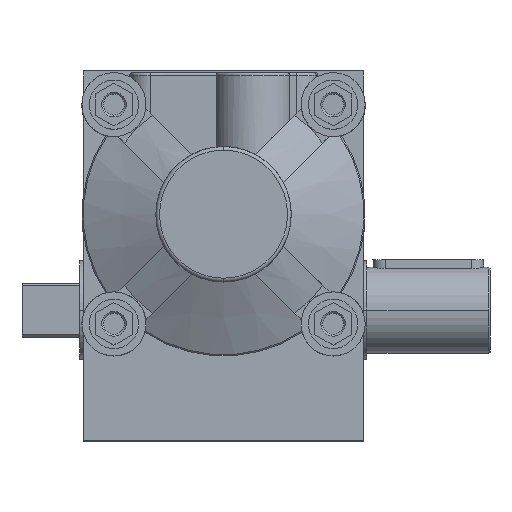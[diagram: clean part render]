
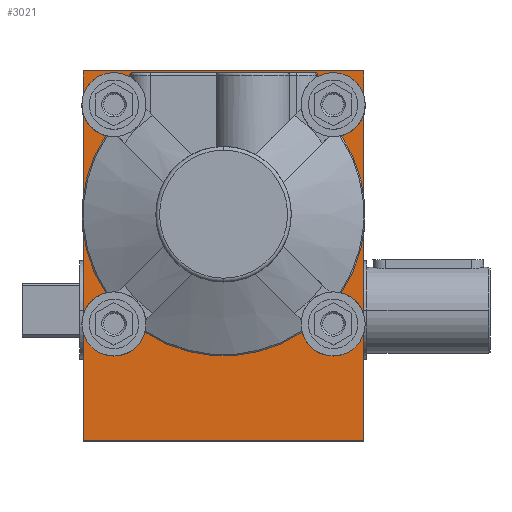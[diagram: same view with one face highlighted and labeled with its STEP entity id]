
A CAD part, top view. The second image highlights one B-rep face of the part: STEP entity #3021.
In plain terms, the highlighted planar face has unit normal (0, 0, 1).
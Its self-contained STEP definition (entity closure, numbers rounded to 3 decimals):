
#272=CARTESIAN_POINT('',(0.,0.,62.5));
#273=DIRECTION('',(0.,0.,1.));
#274=DIRECTION('',(0.,1.,0.));
#275=AXIS2_PLACEMENT_3D('',#272,#273,#274);
#277=CARTESIAN_POINT('',(0.,0.,62.5));
#278=DIRECTION('',(0.,0.,-1.));
#279=DIRECTION('',(0.,1.,0.));
#280=AXIS2_PLACEMENT_3D('',#277,#278,#279);
#282=DIRECTION('',(1.,0.,0.));
#283=VECTOR('',#282,114.);
#284=CARTESIAN_POINT('',(-57.,-91.5,62.5));
#285=LINE('25798',#284,#283);
#286=DIRECTION('',(0.,-1.,0.));
#287=VECTOR('',#286,150.);
#288=CARTESIAN_POINT('',(-57.,58.5,62.5));
#289=LINE('25801',#288,#287);
#290=DIRECTION('',(-1.,0.,0.));
#291=VECTOR('',#290,114.);
#292=CARTESIAN_POINT('',(57.,58.5,62.5));
#293=LINE('25800',#292,#291);
#294=DIRECTION('',(0.,1.,0.));
#295=VECTOR('',#294,150.);
#296=CARTESIAN_POINT('',(57.,-91.5,62.5));
#297=LINE('25799',#296,#295);
#929=CARTESIAN_POINT('',(44.5,44.5,62.5));
#930=DIRECTION('',(0.,0.,1.));
#931=DIRECTION('',(1.,0.,0.));
#932=AXIS2_PLACEMENT_3D('',#929,#930,#931);
#947=CARTESIAN_POINT('',(44.5,44.5,62.5));
#948=DIRECTION('',(0.,0.,1.));
#949=DIRECTION('',(-1.,0.,0.));
#950=AXIS2_PLACEMENT_3D('',#947,#948,#949);
#965=CARTESIAN_POINT('',(-44.5,44.5,62.5));
#966=DIRECTION('',(0.,0.,1.));
#967=DIRECTION('',(1.,0.,0.));
#968=AXIS2_PLACEMENT_3D('',#965,#966,#967);
#983=CARTESIAN_POINT('',(-44.5,44.5,62.5));
#984=DIRECTION('',(0.,0.,1.));
#985=DIRECTION('',(-1.,0.,0.));
#986=AXIS2_PLACEMENT_3D('',#983,#984,#985);
#1001=CARTESIAN_POINT('',(-44.5,-44.5,62.5));
#1002=DIRECTION('',(0.,0.,1.));
#1003=DIRECTION('',(1.,0.,0.));
#1004=AXIS2_PLACEMENT_3D('',#1001,#1002,#1003);
#1019=CARTESIAN_POINT('',(-44.5,-44.5,62.5));
#1020=DIRECTION('',(0.,0.,1.));
#1021=DIRECTION('',(-1.,0.,0.));
#1022=AXIS2_PLACEMENT_3D('',#1019,#1020,#1021);
#1037=CARTESIAN_POINT('',(44.5,-44.5,62.5));
#1038=DIRECTION('',(0.,0.,1.));
#1039=DIRECTION('',(1.,0.,0.));
#1040=AXIS2_PLACEMENT_3D('',#1037,#1038,#1039);
#1055=CARTESIAN_POINT('',(44.5,-44.5,62.5));
#1056=DIRECTION('',(0.,0.,1.));
#1057=DIRECTION('',(-1.,0.,0.));
#1058=AXIS2_PLACEMENT_3D('',#1055,#1056,#1057);
#2264=CARTESIAN_POINT('',(-57.,-91.5,62.5));
#2265=CARTESIAN_POINT('',(57.,-91.5,62.5));
#2266=VERTEX_POINT('',#2264);
#2267=VERTEX_POINT('',#2265);
#2268=CARTESIAN_POINT('',(57.,58.5,62.5));
#2269=VERTEX_POINT('',#2268);
#2270=CARTESIAN_POINT('',(-57.,58.5,62.5));
#2271=VERTEX_POINT('',#2270);
#2580=CARTESIAN_POINT('',(48.95,44.5,62.5));
#2581=CARTESIAN_POINT('',(40.05,44.5,62.5));
#2582=VERTEX_POINT('',#2580);
#2583=VERTEX_POINT('',#2581);
#2588=CARTESIAN_POINT('',(-40.05,44.5,62.5));
#2589=CARTESIAN_POINT('',(-48.95,44.5,62.5));
#2590=VERTEX_POINT('',#2588);
#2591=VERTEX_POINT('',#2589);
#2596=CARTESIAN_POINT('',(-40.05,-44.5,62.5));
#2597=CARTESIAN_POINT('',(-48.95,-44.5,62.5));
#2598=VERTEX_POINT('',#2596);
#2599=VERTEX_POINT('',#2597);
#2604=CARTESIAN_POINT('',(48.95,-44.5,62.5));
#2605=CARTESIAN_POINT('',(40.05,-44.5,62.5));
#2606=VERTEX_POINT('',#2604);
#2607=VERTEX_POINT('',#2605);
#2625=CARTESIAN_POINT('',(0.,52.9,62.5));
#2627=VERTEX_POINT('',#2625);
#2641=CARTESIAN_POINT('',(0.,-52.9,62.5));
#2643=VERTEX_POINT('',#2641);
#2980=CARTESIAN_POINT('',(0.,0.,62.5));
#2981=DIRECTION('',(0.,0.,1.));
#2982=DIRECTION('',(0.,1.,0.));
#2983=AXIS2_PLACEMENT_3D('',#2980,#2981,#2982);
#2984=PLANE('25797',#2983);
#2985=ORIENTED_EDGE('25798',*,*,#2848,.F.);
#2986=ORIENTED_EDGE('25801',*,*,#2887,.F.);
#2987=ORIENTED_EDGE('25800',*,*,#2931,.F.);
#2988=ORIENTED_EDGE('25799',*,*,#2944,.F.);
#2989=EDGE_LOOP('25797',(#2985,#2986,#2987,#2988));
#2990=FACE_OUTER_BOUND('25797',#2989,.F.);
#2992=ORIENTED_EDGE('29380',*,*,#2991,.T.);
#2994=ORIENTED_EDGE('29338',*,*,#2993,.F.);
#2995=EDGE_LOOP('25797',(#2992,#2994));
#2996=FACE_BOUND('25797',#2995,.F.);
#2998=ORIENTED_EDGE('28058',*,*,#2997,.T.);
#3000=ORIENTED_EDGE('28060',*,*,#2999,.T.);
#3001=EDGE_LOOP('25797',(#2998,#3000));
#3002=FACE_BOUND('25797',#3001,.F.);
#3004=ORIENTED_EDGE('28062',*,*,#3003,.T.);
#3006=ORIENTED_EDGE('28064',*,*,#3005,.T.);
#3007=EDGE_LOOP('25797',(#3004,#3006));
#3008=FACE_BOUND('25797',#3007,.F.);
#3010=ORIENTED_EDGE('28066',*,*,#3009,.T.);
#3012=ORIENTED_EDGE('28068',*,*,#3011,.T.);
#3013=EDGE_LOOP('25797',(#3010,#3012));
#3014=FACE_BOUND('25797',#3013,.F.);
#3016=ORIENTED_EDGE('28070',*,*,#3015,.T.);
#3018=ORIENTED_EDGE('28072',*,*,#3017,.T.);
#3019=EDGE_LOOP('25797',(#3016,#3018));
#3020=FACE_BOUND('25797',#3019,.F.);
#3021=ADVANCED_FACE('25797',(#2990,#2996,#3002,#3008,#3014,#3020),#2984,.T.);
#276=CIRCLE('29380',#275,52.9);
#281=CIRCLE('29338',#280,52.9);
#933=CIRCLE('28058',#932,4.45);
#951=CIRCLE('28060',#950,4.45);
#969=CIRCLE('28062',#968,4.45);
#987=CIRCLE('28064',#986,4.45);
#1005=CIRCLE('28066',#1004,4.45);
#1023=CIRCLE('28068',#1022,4.45);
#1041=CIRCLE('28070',#1040,4.45);
#1059=CIRCLE('28072',#1058,4.45);
#2848=EDGE_CURVE('25798',#2266,#2267,#285,.T.);
#2887=EDGE_CURVE('25801',#2271,#2266,#289,.T.);
#2931=EDGE_CURVE('25800',#2269,#2271,#293,.T.);
#2944=EDGE_CURVE('25799',#2267,#2269,#297,.T.);
#2991=EDGE_CURVE('29380',#2627,#2643,#276,.T.);
#2993=EDGE_CURVE('29338',#2627,#2643,#281,.T.);
#2997=EDGE_CURVE('28058',#2582,#2583,#933,.T.);
#2999=EDGE_CURVE('28060',#2583,#2582,#951,.T.);
#3003=EDGE_CURVE('28062',#2590,#2591,#969,.T.);
#3005=EDGE_CURVE('28064',#2591,#2590,#987,.T.);
#3009=EDGE_CURVE('28066',#2598,#2599,#1005,.T.);
#3011=EDGE_CURVE('28068',#2599,#2598,#1023,.T.);
#3015=EDGE_CURVE('28070',#2606,#2607,#1041,.T.);
#3017=EDGE_CURVE('28072',#2607,#2606,#1059,.T.);
